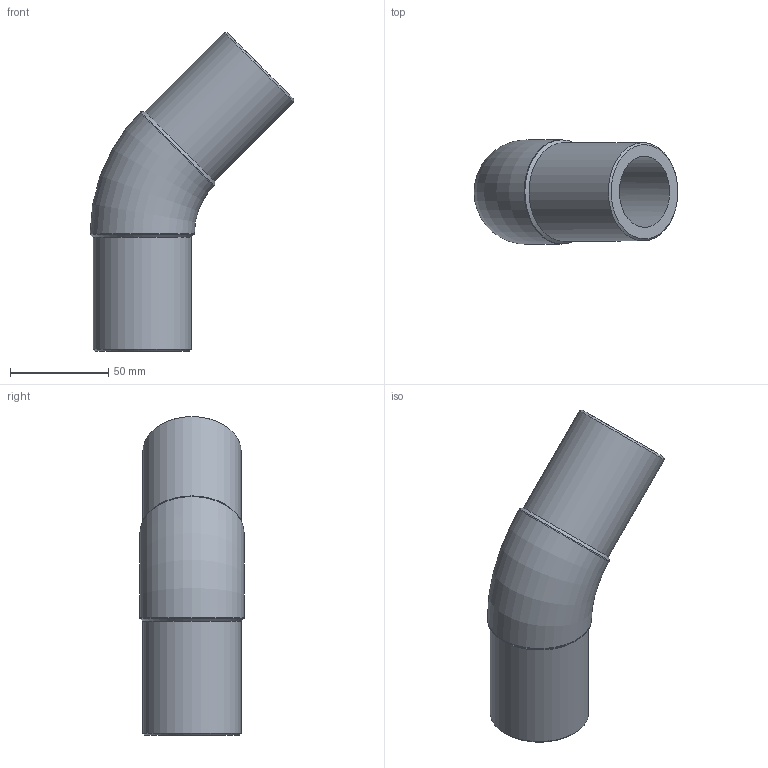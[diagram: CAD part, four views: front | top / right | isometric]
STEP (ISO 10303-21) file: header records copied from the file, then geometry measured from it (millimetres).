
FILE_DESCRIPTION(/* description */ ('Unknown'),/* implementation_level */ '2;1');
FILE_NAME(/* name */ 'G4P050H',/* time_stamp */ '2022-01-21T09:29:32+01:00',/* author */ ('Unknown'),/* organization */ ('Unknown'),/* preprocessor_version */ 'ST-DEVELOPER v18.1',/* originating_system */ 'Solid Edge',/* authorisation */ 'Unknown');
FILE_SCHEMA (('AUTOMOTIVE_DESIGN {1 0 10303 214 3 1 1}'));
Length unit declared in the file: millimetre
Products named in the file (1): G4P050H
Bounding box: 103.57 x 53 x 162.07 mm (x, y, z)
Volume: 170020.4 mm3; surface area: 47649.4 mm2
Topology: 1 solids, 1 shells, 14 faces, 34 edges, 22 vertices
Faces by surface type: cylinder 6, cone 4, plane 2, torus 2
Full cylindrical faces by diameter (mm): 36.2 x2, 50 x2, 53 x2
Entity records: 370 total; most frequent: CARTESIAN_POINT 70, DIRECTION 60, ORIENTED_EDGE 38, AXIS2_PLACEMENT_3D 30, EDGE_LOOP 27, FACE_BOUND 27, EDGE_CURVE 19, VERTEX_POINT 18
